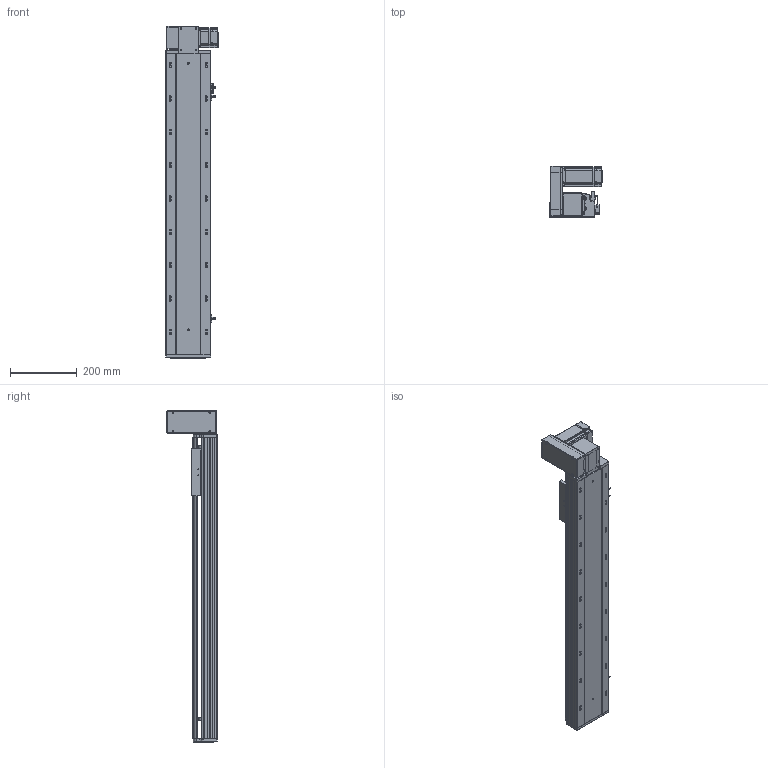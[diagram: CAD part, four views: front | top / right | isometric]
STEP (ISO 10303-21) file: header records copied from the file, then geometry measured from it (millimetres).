
FILE_DESCRIPTION (( 'STEP AP203' ), '1' );
FILE_NAME ('RY140-T-300-UL.SLDASM_650.step', '2021-03-01T07:43:20', ( '盈信电脑' ), ( '东莞市道滘镇水果街19号' ), 'SwSTEP 2.0', 'SolidWorks 2012', '' );
FILE_SCHEMA (( 'CONFIG_CONTROL_DESIGN' ));
Length unit declared in the file: millimetre
Products named in the file (18): RY140-T萇儂欶; 滅袉蝶18-10; RY140-T翋肮謫裔啣; RY140-T-300-UL.SLDASM_650; 侂狟400W侜督萇儂; RY120-T蹟翐M4; RY120-T主同步轮轴承压盖; 15; RY140-T翋肮祭謫盓傅釱; RY120-T肮祭湍揤踡輸1; RY140-T萇儂假蚾啣; RY140綴裔啣; RY120外置感应片(140共用）; 覜茼ん672; RY120-T肮祭湍揤踡輸2; RY140-T-300-DL倰第菁釱_650; RY140肮祭謫臏賑輸; RY140-T-300-DL倰第奻裔啣_650
Assembly tree (23 placements, depth 3):
  RY140-T-300-UL.SLDASM_650
    RY140-T-300-DL倰第菁釱_650
    RY140肮祭謫臏賑輸
    RY140-T-300-DL倰第奻裔啣_650
    RY140綴裔啣
    覜茼ん672  x3
    RY120外置感应片(140共用）
    RY120-T肮祭湍揤踡輸2
    RY120-T肮祭湍揤踡輸1
    RY140-T翋肮祭謫盓傅釱
    RY140-T萇儂假蚾啣
    侂狟400W侜督萇儂
      15
    RY120-T主同步轮轴承压盖
    RY120-T蹟翐M4  x4
    RY140-T萇儂欶
    滅袉蝶18-10  x2
    RY140-T翋肮謫裔啣
Bounding box: 157 x 152.5 x 996 mm (x, y, z)
Volume: 3154855.8 mm3; surface area: 1183393.3 mm2
Topology: 22 solids, 22 shells, 2655 faces, 7297 edges, 4698 vertices
Faces by surface type: plane 1381, cylinder 976, cone 198, bspline 100
Entity records: 84455 total; most frequent: CARTESIAN_POINT 20747, ORIENTED_EDGE 13122, DIRECTION 12401, EDGE_CURVE 6561, VERTEX_POINT 4297, VECTOR 4193, LINE 4193, AXIS2_PLACEMENT_3D 4104
